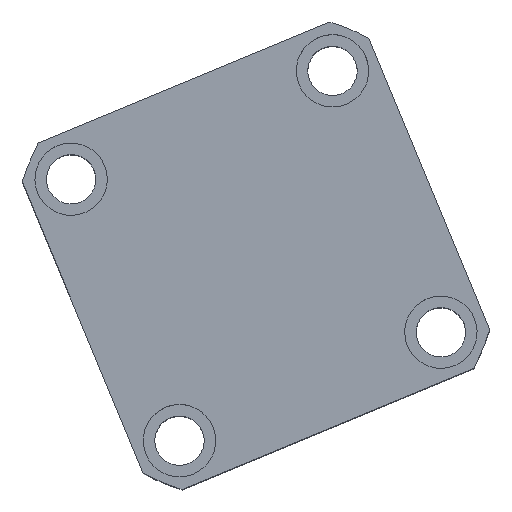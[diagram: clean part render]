
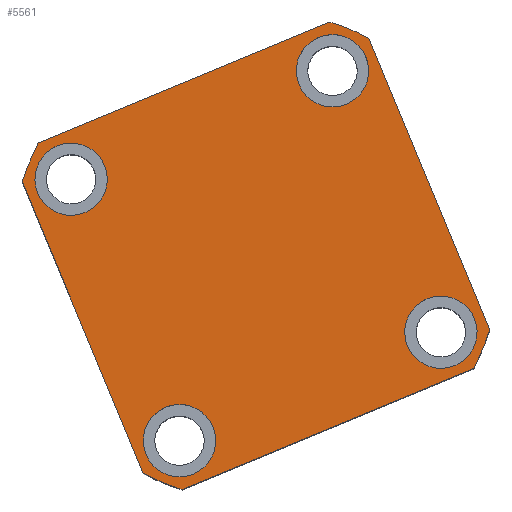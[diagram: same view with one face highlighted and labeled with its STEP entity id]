
A CAD part, top view. The second image highlights one B-rep face of the part: STEP entity #5561.
In plain terms, the highlighted planar face has unit normal (0, 0, 1) as drawn and (0, 0, -1) by its records, which use the part's own axes.
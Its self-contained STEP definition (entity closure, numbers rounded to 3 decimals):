
#111 = DIRECTION ( 'NONE',  ( 0., 0., -1. ) ) ;
#204 = DIRECTION ( 'NONE',  ( 0., 0., -1. ) ) ;
#205 = ORIENTED_EDGE ( 'NONE', *, *, #15215, .F. ) ;
#354 = FACE_BOUND ( 'NONE', #13774, .T. ) ;
#563 = DIRECTION ( 'NONE',  ( 0., 0., -1. ) ) ;
#667 = LINE ( 'NONE', #15069, #16939 ) ;
#724 = AXIS2_PLACEMENT_3D ( 'NONE', #10002, #563, #11594 ) ;
#749 = CARTESIAN_POINT ( 'NONE',  ( 0., 0., 0. ) ) ;
#830 = FACE_BOUND ( 'NONE', #2176, .T. ) ;
#928 = DIRECTION ( 'NONE',  ( 0., 0., 1. ) ) ;
#1023 = PLANE ( 'NONE',  #13368 ) ;
#1037 = CARTESIAN_POINT ( 'NONE',  ( 0., 0., 0. ) ) ;
#1056 = DIRECTION ( 'NONE',  ( 0., 0., 1. ) ) ;
#1068 = DIRECTION ( 'NONE',  ( 1., 0., 0. ) ) ;
#1105 = CARTESIAN_POINT ( 'NONE',  ( -54., -43., 0. ) ) ;
#1136 = CIRCLE ( 'NONE', #5263, 74.5 ) ;
#1386 = CARTESIAN_POINT ( 'NONE',  ( 0., 0., 0. ) ) ;
#2145 = VERTEX_POINT ( 'NONE', #3297 ) ;
#2176 = EDGE_LOOP ( 'NONE', ( #5126, #9808 ) ) ;
#2317 = DIRECTION ( 'NONE',  ( 1., 0., 0. ) ) ;
#2523 = CARTESIAN_POINT ( 'NONE',  ( -43., 43., 0. ) ) ;
#2635 = ORIENTED_EDGE ( 'NONE', *, *, #19539, .F. ) ;
#2796 = VERTEX_POINT ( 'NONE', #18385 ) ;
#2960 = DIRECTION ( 'NONE',  ( 1., 0., 0. ) ) ;
#3128 = DIRECTION ( 'NONE',  ( 0., -1., 0. ) ) ;
#3211 = CARTESIAN_POINT ( 'NONE',  ( -32., 43., 0. ) ) ;
#3217 = EDGE_CURVE ( 'NONE', #3694, #8158, #1136, .T. ) ;
#3229 = EDGE_CURVE ( 'NONE', #2145, #18138, #667, .T. ) ;
#3297 = CARTESIAN_POINT ( 'NONE',  ( -47.971, -57., 0. ) ) ;
#3337 = CARTESIAN_POINT ( 'NONE',  ( 43., -43., 0. ) ) ;
#3360 = DIRECTION ( 'NONE',  ( 0., 0., -1. ) ) ;
#3380 = DIRECTION ( 'NONE',  ( -1., 0., 0. ) ) ;
#3485 = AXIS2_PLACEMENT_3D ( 'NONE', #3337, #3360, #3380 ) ;
#3620 = CARTESIAN_POINT ( 'NONE',  ( -47.971, 57., 0. ) ) ;
#3651 = ORIENTED_EDGE ( 'NONE', *, *, #3217, .F. ) ;
#3694 = VERTEX_POINT ( 'NONE', #15254 ) ;
#4075 = CARTESIAN_POINT ( 'NONE',  ( -57., -47.971, 0. ) ) ;
#4135 = DIRECTION ( 'NONE',  ( -1., 0., 0. ) ) ;
#4224 = VERTEX_POINT ( 'NONE', #6737 ) ;
#4265 = CARTESIAN_POINT ( 'NONE',  ( -57., 57., 0. ) ) ;
#4322 = DIRECTION ( 'NONE',  ( -1., 0., 0. ) ) ;
#4677 = DIRECTION ( 'NONE',  ( 0., 0., -1. ) ) ;
#5126 = ORIENTED_EDGE ( 'NONE', *, *, #15035, .F. ) ;
#5242 = CARTESIAN_POINT ( 'NONE',  ( 47.971, 57., 0. ) ) ;
#5263 = AXIS2_PLACEMENT_3D ( 'NONE', #15473, #16483, #18488 ) ;
#5429 = ORIENTED_EDGE ( 'NONE', *, *, #7659, .F. ) ;
#5496 = AXIS2_PLACEMENT_3D ( 'NONE', #749, #11774, #2317 ) ;
#5561 = ADVANCED_FACE ( 'NONE', ( #17113, #830, #354, #16616, #12391 ), #1023, .F. ) ;
#5688 = DIRECTION ( 'NONE',  ( 0., 0., -1. ) ) ;
#5776 = VECTOR ( 'NONE', #4322, 1000. ) ;
#5868 = EDGE_CURVE ( 'NONE', #14998, #4224, #18861, .T. ) ;
#5910 = EDGE_LOOP ( 'NONE', ( #5429, #19562 ) ) ;
#6006 = EDGE_CURVE ( 'NONE', #8158, #12939, #10452, .T. ) ;
#6555 = ORIENTED_EDGE ( 'NONE', *, *, #6006, .F. ) ;
#6684 = AXIS2_PLACEMENT_3D ( 'NONE', #1386, #12409, #2960 ) ;
#6737 = CARTESIAN_POINT ( 'NONE',  ( 32., -43., 0. ) ) ;
#6996 = VERTEX_POINT ( 'NONE', #13629 ) ;
#7048 = CIRCLE ( 'NONE', #20220, 11. ) ;
#7118 = ORIENTED_EDGE ( 'NONE', *, *, #10810, .F. ) ;
#7281 = ORIENTED_EDGE ( 'NONE', *, *, #7473, .F. ) ;
#7473 = EDGE_CURVE ( 'NONE', #9638, #2145, #12630, .T. ) ;
#7524 = ORIENTED_EDGE ( 'NONE', *, *, #15505, .F. ) ;
#7659 = EDGE_CURVE ( 'NONE', #7782, #6996, #13132, .T. ) ;
#7782 = VERTEX_POINT ( 'NONE', #1105 ) ;
#7941 = CIRCLE ( 'NONE', #14438, 11. ) ;
#8158 = VERTEX_POINT ( 'NONE', #5242 ) ;
#8649 = DIRECTION ( 'NONE',  ( 0., 1., 0. ) ) ;
#9114 = DIRECTION ( 'NONE',  ( 0., 0., -1. ) ) ;
#9545 = CARTESIAN_POINT ( 'NONE',  ( 43., 43., 0. ) ) ;
#9638 = VERTEX_POINT ( 'NONE', #4075 ) ;
#9648 = CARTESIAN_POINT ( 'NONE',  ( -43., 43., 0. ) ) ;
#9718 = AXIS2_PLACEMENT_3D ( 'NONE', #15096, #5688, #16705 ) ;
#9808 = ORIENTED_EDGE ( 'NONE', *, *, #5868, .F. ) ;
#9874 = VECTOR ( 'NONE', #8649, 1000. ) ;
#10002 = CARTESIAN_POINT ( 'NONE',  ( 43., -43., 0. ) ) ;
#10240 = LINE ( 'NONE', #12577, #18635 ) ;
#10298 = ORIENTED_EDGE ( 'NONE', *, *, #17388, .F. ) ;
#10366 = CIRCLE ( 'NONE', #12449, 11. ) ;
#10383 = CARTESIAN_POINT ( 'NONE',  ( 0., 0., 0. ) ) ;
#10452 = LINE ( 'NONE', #4265, #5776 ) ;
#10810 = EDGE_CURVE ( 'NONE', #14071, #13975, #7048, .T. ) ;
#10868 = EDGE_CURVE ( 'NONE', #11384, #9638, #10240, .T. ) ;
#10941 = ORIENTED_EDGE ( 'NONE', *, *, #3229, .F. ) ;
#11138 = DIRECTION ( 'NONE',  ( -1., 0., 0. ) ) ;
#11225 = DIRECTION ( 'NONE',  ( -1., 0., 0. ) ) ;
#11384 = VERTEX_POINT ( 'NONE', #13888 ) ;
#11594 = DIRECTION ( 'NONE',  ( -1., 0., 0. ) ) ;
#11774 = DIRECTION ( 'NONE',  ( 0., 0., 1. ) ) ;
#11948 = DIRECTION ( 'NONE',  ( 1., 0., 0. ) ) ;
#12132 = EDGE_CURVE ( 'NONE', #6996, #7782, #15658, .T. ) ;
#12325 = AXIS2_PLACEMENT_3D ( 'NONE', #10383, #928, #11948 ) ;
#12391 = FACE_OUTER_BOUND ( 'NONE', #17584, .T. ) ;
#12409 = DIRECTION ( 'NONE',  ( 0., 0., 1. ) ) ;
#12416 = ORIENTED_EDGE ( 'NONE', *, *, #18517, .F. ) ;
#12449 = AXIS2_PLACEMENT_3D ( 'NONE', #9545, #111, #11138 ) ;
#12509 = ORIENTED_EDGE ( 'NONE', *, *, #17593, .F. ) ;
#12577 = CARTESIAN_POINT ( 'NONE',  ( -57., 57., 0. ) ) ;
#12630 = CIRCLE ( 'NONE', #5496, 74.5 ) ;
#12701 = CARTESIAN_POINT ( 'NONE',  ( -54., 43., 0. ) ) ;
#12791 = CIRCLE ( 'NONE', #15795, 11. ) ;
#12939 = VERTEX_POINT ( 'NONE', #3620 ) ;
#13097 = CIRCLE ( 'NONE', #724, 11. ) ;
#13132 = CIRCLE ( 'NONE', #9718, 11. ) ;
#13368 = AXIS2_PLACEMENT_3D ( 'NONE', #1037, #1056, #1068 ) ;
#13556 = DIRECTION ( 'NONE',  ( 0., 0., -1. ) ) ;
#13629 = CARTESIAN_POINT ( 'NONE',  ( -32., -43., 0. ) ) ;
#13774 = EDGE_LOOP ( 'NONE', ( #10298, #7118 ) ) ;
#13888 = CARTESIAN_POINT ( 'NONE',  ( -57., 47.971, 0. ) ) ;
#13975 = VERTEX_POINT ( 'NONE', #14896 ) ;
#14071 = VERTEX_POINT ( 'NONE', #18302 ) ;
#14076 = CARTESIAN_POINT ( 'NONE',  ( 43., 43., 0. ) ) ;
#14438 = AXIS2_PLACEMENT_3D ( 'NONE', #2523, #13556, #4135 ) ;
#14669 = CARTESIAN_POINT ( 'NONE',  ( 54., -43., 0. ) ) ;
#14896 = CARTESIAN_POINT ( 'NONE',  ( 32., 43., 0. ) ) ;
#14998 = VERTEX_POINT ( 'NONE', #14669 ) ;
#15035 = EDGE_CURVE ( 'NONE', #4224, #14998, #13097, .T. ) ;
#15069 = CARTESIAN_POINT ( 'NONE',  ( -57., -57., 0. ) ) ;
#15096 = CARTESIAN_POINT ( 'NONE',  ( -43., -43., 0. ) ) ;
#15215 = EDGE_CURVE ( 'NONE', #17473, #19478, #7941, .T. ) ;
#15254 = CARTESIAN_POINT ( 'NONE',  ( 57., 47.971, 0. ) ) ;
#15402 = DIRECTION ( 'NONE',  ( 1., 0., 0. ) ) ;
#15473 = CARTESIAN_POINT ( 'NONE',  ( 0., 0., 0. ) ) ;
#15505 = EDGE_CURVE ( 'NONE', #18138, #2796, #18072, .T. ) ;
#15658 = CIRCLE ( 'NONE', #18018, 11. ) ;
#15680 = DIRECTION ( 'NONE',  ( -1., 0., 0. ) ) ;
#15795 = AXIS2_PLACEMENT_3D ( 'NONE', #9648, #204, #11225 ) ;
#15933 = CARTESIAN_POINT ( 'NONE',  ( 47.971, -57., 0. ) ) ;
#16139 = ORIENTED_EDGE ( 'NONE', *, *, #10868, .F. ) ;
#16483 = DIRECTION ( 'NONE',  ( 0., 0., 1. ) ) ;
#16616 = FACE_BOUND ( 'NONE', #18454, .T. ) ;
#16705 = DIRECTION ( 'NONE',  ( -1., 0., 0. ) ) ;
#16939 = VECTOR ( 'NONE', #15402, 1000. ) ;
#17113 = FACE_BOUND ( 'NONE', #5910, .T. ) ;
#17278 = LINE ( 'NONE', #18117, #9874 ) ;
#17388 = EDGE_CURVE ( 'NONE', #13975, #14071, #10366, .T. ) ;
#17473 = VERTEX_POINT ( 'NONE', #12701 ) ;
#17584 = EDGE_LOOP ( 'NONE', ( #3651, #12509, #7524, #10941, #7281, #16139, #12416, #6555 ) ) ;
#17593 = EDGE_CURVE ( 'NONE', #2796, #3694, #17278, .T. ) ;
#18018 = AXIS2_PLACEMENT_3D ( 'NONE', #18583, #9114, #20155 ) ;
#18072 = CIRCLE ( 'NONE', #6684, 74.5 ) ;
#18117 = CARTESIAN_POINT ( 'NONE',  ( 57., 57., 0. ) ) ;
#18138 = VERTEX_POINT ( 'NONE', #15933 ) ;
#18302 = CARTESIAN_POINT ( 'NONE',  ( 54., 43., 0. ) ) ;
#18385 = CARTESIAN_POINT ( 'NONE',  ( 57., -47.971, 0. ) ) ;
#18454 = EDGE_LOOP ( 'NONE', ( #205, #2635 ) ) ;
#18488 = DIRECTION ( 'NONE',  ( 1., 0., 0. ) ) ;
#18517 = EDGE_CURVE ( 'NONE', #12939, #11384, #18753, .T. ) ;
#18583 = CARTESIAN_POINT ( 'NONE',  ( -43., -43., 0. ) ) ;
#18635 = VECTOR ( 'NONE', #3128, 1000. ) ;
#18753 = CIRCLE ( 'NONE', #12325, 74.5 ) ;
#18861 = CIRCLE ( 'NONE', #3485, 11. ) ;
#19478 = VERTEX_POINT ( 'NONE', #3211 ) ;
#19539 = EDGE_CURVE ( 'NONE', #19478, #17473, #12791, .T. ) ;
#19562 = ORIENTED_EDGE ( 'NONE', *, *, #12132, .F. ) ;
#20155 = DIRECTION ( 'NONE',  ( -1., 0., 0. ) ) ;
#20220 = AXIS2_PLACEMENT_3D ( 'NONE', #14076, #4677, #15680 ) ;
